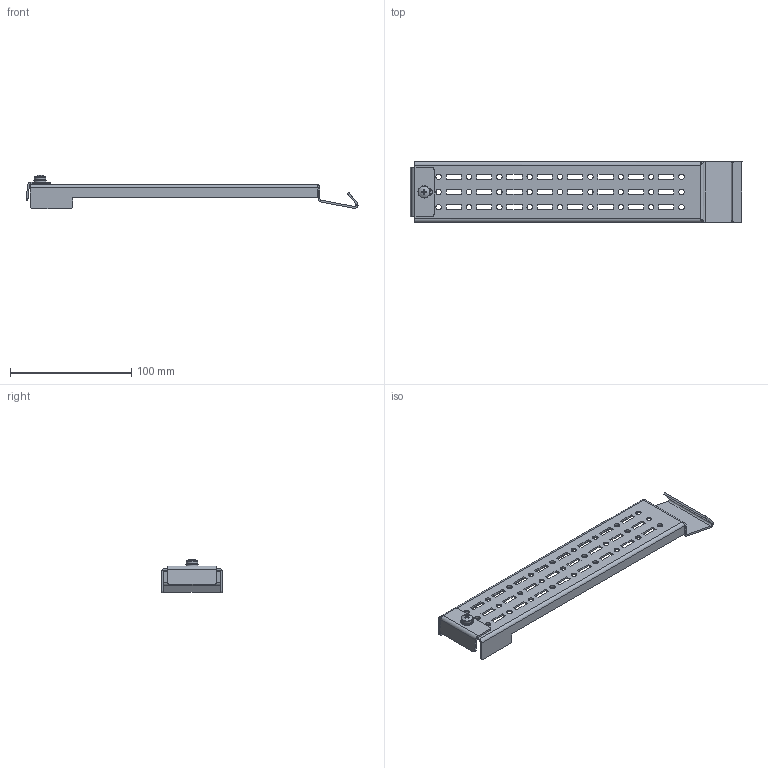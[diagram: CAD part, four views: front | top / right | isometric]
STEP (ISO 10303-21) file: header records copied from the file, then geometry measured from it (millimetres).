
FILE_DESCRIPTION(('STEP AP203'), '1');
FILE_NAME('ØÂÌ.ÙÌÏ ÑÁ Øèíà âíóòðåííåãî ìîíòàæà', '', ('UNSPECIFIED'), ('UNSPECIFIED'), 'C3D Converter', 'C3D Toolkit', '');
FILE_SCHEMA(('CONFIG_CONTROL_DESIGN'));
Length unit declared in the file: millimetre
Products named in the file (7): ШВМ.ЩМП.30 СБ; 498.30; 499
Assembly tree (6 placements, depth 2):
  ШВМ.ЩМП.30 СБ
    498.30
    (unnamed)
    499
    (unnamed)
    (unnamed)
    (unnamed)
Bounding box: 273.39 x 50 x 27.64 mm (x, y, z)
Volume: 29343.2 mm3; surface area: 42405.4 mm2
Topology: 6 solids, 6 shells, 276 faces, 742 edges, 483 vertices
Faces by surface type: plane 189, cylinder 71, bspline 12, torus 2, cone 1, sphere 1
Full cylindrical faces by diameter (mm): 4.134 x1, 4.5 x27, 5 x1, 5.5 x1, 5.8 x1, 9.5 x1, 10 x1
Entity records: 11760 total; most frequent: CARTESIAN_POINT 4332, ORIENTED_EDGE 1390, DIRECTION 1364, EDGE_CURVE 695, LINE 510, VECTOR 510, VERTEX_POINT 471, AXIS2_PLACEMENT_3D 427
